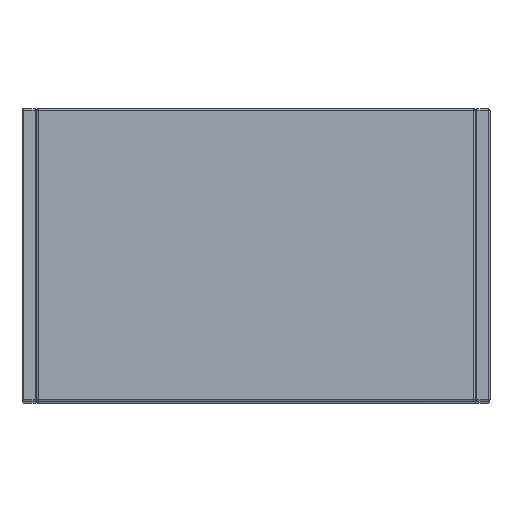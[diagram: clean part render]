
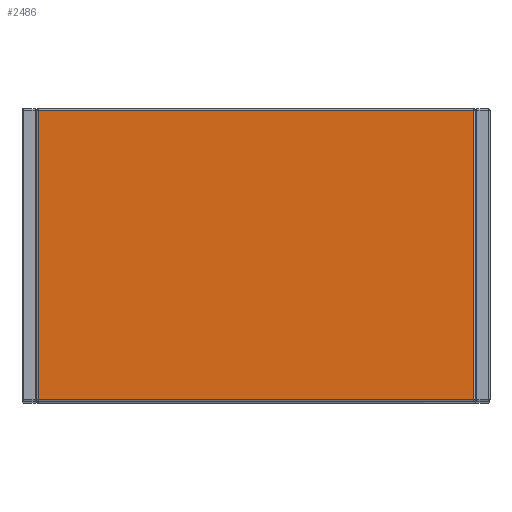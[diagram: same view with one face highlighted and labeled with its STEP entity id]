
A CAD part, top view. The second image highlights one B-rep face of the part: STEP entity #2486.
In plain terms, the highlighted planar face has unit normal (0, 0, 1).
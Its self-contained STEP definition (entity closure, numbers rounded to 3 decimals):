
#14 = EDGE_CURVE ( 'NONE', #2411, #311, #16, .T. ) ;
#16 = LINE ( 'NONE', #2446, #2606 ) ;
#21 = LINE ( 'NONE', #1487, #1903 ) ;
#113 = VERTEX_POINT ( 'NONE', #2247 ) ;
#153 = AXIS2_PLACEMENT_3D ( 'NONE', #919, #2110, #2312 ) ;
#311 = VERTEX_POINT ( 'NONE', #2516 ) ;
#356 = CARTESIAN_POINT ( 'NONE',  ( 150., 1., 5. ) ) ;
#479 = ORIENTED_EDGE ( 'NONE', *, *, #2204, .T. ) ;
#557 = EDGE_CURVE ( 'NONE', #311, #2549, #983, .T. ) ;
#632 = EDGE_CURVE ( 'NONE', #113, #2411, #21, .T. ) ;
#854 = VECTOR ( 'NONE', #2617, 1000. ) ;
#919 = CARTESIAN_POINT ( 'NONE',  ( -150., 200., 5. ) ) ;
#954 = VECTOR ( 'NONE', #2231, 1000. ) ;
#983 = LINE ( 'NONE', #1807, #854 ) ;
#1072 = DIRECTION ( 'NONE',  ( 0., 1., 0. ) ) ;
#1136 = EDGE_LOOP ( 'NONE', ( #1975, #2384, #479, #2427 ) ) ;
#1156 = CARTESIAN_POINT ( 'NONE',  ( -149., 1., 5. ) ) ;
#1288 = CARTESIAN_POINT ( 'NONE',  ( 149., 199., 5. ) ) ;
#1487 = CARTESIAN_POINT ( 'NONE',  ( 149., 200., 5. ) ) ;
#1691 = PLANE ( 'NONE',  #153 ) ;
#1804 = LINE ( 'NONE', #356, #954 ) ;
#1807 = CARTESIAN_POINT ( 'NONE',  ( -149., 200., 5. ) ) ;
#1832 = DIRECTION ( 'NONE',  ( -1., 0., 0. ) ) ;
#1903 = VECTOR ( 'NONE', #1072, 1000. ) ;
#1975 = ORIENTED_EDGE ( 'NONE', *, *, #14, .T. ) ;
#2110 = DIRECTION ( 'NONE',  ( 0., 0., -1. ) ) ;
#2204 = EDGE_CURVE ( 'NONE', #2549, #113, #1804, .T. ) ;
#2231 = DIRECTION ( 'NONE',  ( 1., 0., 0. ) ) ;
#2247 = CARTESIAN_POINT ( 'NONE',  ( 149., 1., 5. ) ) ;
#2312 = DIRECTION ( 'NONE',  ( -1., 0., 0. ) ) ;
#2384 = ORIENTED_EDGE ( 'NONE', *, *, #557, .T. ) ;
#2411 = VERTEX_POINT ( 'NONE', #1288 ) ;
#2427 = ORIENTED_EDGE ( 'NONE', *, *, #632, .T. ) ;
#2446 = CARTESIAN_POINT ( 'NONE',  ( -150., 199., 5. ) ) ;
#2486 = ADVANCED_FACE ( 'NONE', ( #2508 ), #1691, .F. ) ;
#2508 = FACE_OUTER_BOUND ( 'NONE', #1136, .T. ) ;
#2516 = CARTESIAN_POINT ( 'NONE',  ( -149., 199., 5. ) ) ;
#2549 = VERTEX_POINT ( 'NONE', #1156 ) ;
#2606 = VECTOR ( 'NONE', #1832, 1000. ) ;
#2617 = DIRECTION ( 'NONE',  ( 0., -1., 0. ) ) ;
